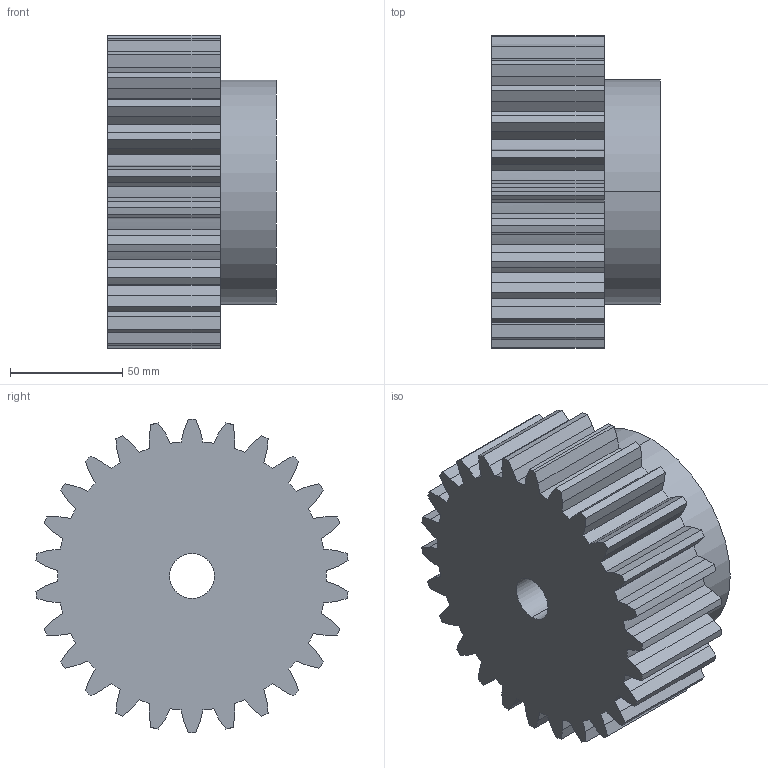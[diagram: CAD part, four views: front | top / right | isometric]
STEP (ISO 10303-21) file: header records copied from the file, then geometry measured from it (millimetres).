
FILE_DESCRIPTION (( 'STEP AP203' ), '1' );
FILE_NAME ('PM 32026.STEP', '2013-09-26T07:46:36', ( '' ), ( '' ), 'SwSTEP 2.0', 'SolidWorks 2010', '' );
FILE_SCHEMA (( 'CONFIG_CONTROL_DESIGN' ));
Length unit declared in the file: millimetre
Products named in the file (1): PM 32026
Bounding box: 75 x 139.34 x 140 mm (x, y, z)
Volume: 827890.8 mm3; surface area: 76531.8 mm2
Topology: 1 solids, 1 shells, 164 faces, 483 edges, 322 vertices
Faces by surface type: plane 107, cylinder 57
Entity records: 5646 total; most frequent: CARTESIAN_POINT 1366, ORIENTED_EDGE 966, DIRECTION 767, EDGE_CURVE 483, VERTEX_POINT 322, VECTOR 265, LINE 265, AXIS2_PLACEMENT_3D 251
